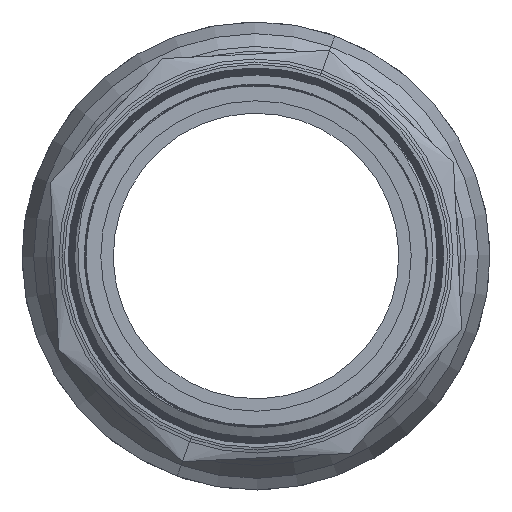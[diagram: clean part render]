
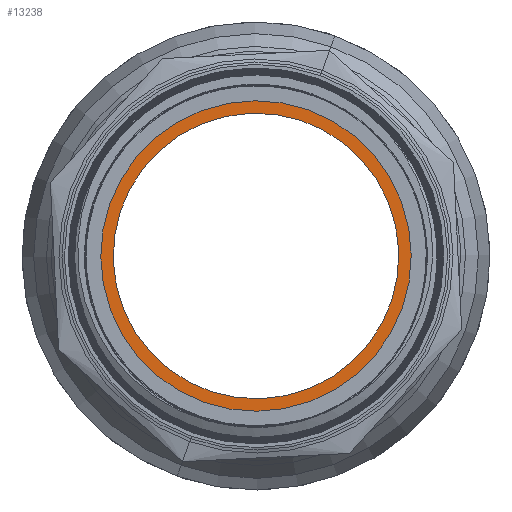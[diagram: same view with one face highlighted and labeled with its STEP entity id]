
A CAD part, left-side view. The second image highlights one B-rep face of the part: STEP entity #13238.
In plain terms, the highlighted planar face has unit normal (-1, 0, 0).
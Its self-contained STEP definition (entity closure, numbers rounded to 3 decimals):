
#477 = CARTESIAN_POINT ( 'NONE',  ( -774.548, 0., 71.953 ) ) ;
#478 = DIRECTION ( 'NONE',  ( -1., 0., 0. ) ) ;
#479 = DIRECTION ( 'NONE',  ( 0., -0.613, 0.79 ) ) ;
#542 = CARTESIAN_POINT ( 'NONE',  ( -774.548, 0., 71.953 ) ) ;
#543 = DIRECTION ( 'NONE',  ( -1., 0., 0. ) ) ;
#544 = DIRECTION ( 'NONE',  ( 0., -0.613, 0.79 ) ) ;
#765 = CARTESIAN_POINT ( 'NONE',  ( -774.548, 0., 71.953 ) ) ;
#766 = DIRECTION ( 'NONE',  ( -1., 0., 0. ) ) ;
#767 = DIRECTION ( 'NONE',  ( 0., -0.613, 0.79 ) ) ;
#768 = CARTESIAN_POINT ( 'NONE',  ( -774.548, 0., 71.953 ) ) ;
#769 = DIRECTION ( 'NONE',  ( -1., 0., 0. ) ) ;
#770 = DIRECTION ( 'NONE',  ( 0., -0.613, 0.79 ) ) ;
#1520 = CARTESIAN_POINT ( 'NONE',  ( -774.548, 10.115, 58.917 ) ) ;
#1576 = CARTESIAN_POINT ( 'NONE',  ( -774.548, -10.115, 84.989 ) ) ;
#1582 = CARTESIAN_POINT ( 'NONE',  ( -774.548, -7.05, 81.038 ) ) ;
#1586 = CARTESIAN_POINT ( 'NONE',  ( -774.548, 7.05, 62.867 ) ) ;
#13238 = ADVANCED_FACE ( 'NONE', ( #14004, #14005 ), #14006, .T. ) ;
#13384 = EDGE_CURVE ( 'NONE', #13647, #13643, #16756, .T. ) ;
#13390 = EDGE_CURVE ( 'NONE', #13637, #13651, #16758, .T. ) ;
#13411 = EDGE_CURVE ( 'NONE', #13651, #13637, #15822, .T. ) ;
#13412 = EDGE_CURVE ( 'NONE', #13643, #13647, #15844, .T. ) ;
#13637 = VERTEX_POINT ( 'NONE', #1576 ) ;
#13643 = VERTEX_POINT ( 'NONE', #1582 ) ;
#13647 = VERTEX_POINT ( 'NONE', #1586 ) ;
#13651 = VERTEX_POINT ( 'NONE', #1520 ) ;
#14001 = CARTESIAN_POINT ( 'NONE',  ( -774.548, 0., 71.953 ) ) ;
#14004 = FACE_OUTER_BOUND ( 'NONE', #14858, .T. ) ;
#14005 = FACE_BOUND ( 'NONE', #14656, .T. ) ;
#14006 = PLANE ( 'NONE',  #16883 ) ;
#14008 = DIRECTION ( 'NONE',  ( -1., 0., 0. ) ) ;
#14009 = DIRECTION ( 'NONE',  ( 0., -0.613, 0.79 ) ) ;
#14656 = EDGE_LOOP ( 'NONE', ( #16681, #16682 ) ) ;
#14858 = EDGE_LOOP ( 'NONE', ( #16679, #16680 ) ) ;
#15822 = CIRCLE ( 'NONE', #15890, 16.5 ) ;
#15843 = AXIS2_PLACEMENT_3D ( 'NONE', #768, #769, #770 ) ;
#15844 = CIRCLE ( 'NONE', #15843, 11.5 ) ;
#15890 = AXIS2_PLACEMENT_3D ( 'NONE', #765, #766, #767 ) ;
#16679 = ORIENTED_EDGE ( 'NONE', *, *, #13411, .T. ) ;
#16680 = ORIENTED_EDGE ( 'NONE', *, *, #13390, .T. ) ;
#16681 = ORIENTED_EDGE ( 'NONE', *, *, #13384, .F. ) ;
#16682 = ORIENTED_EDGE ( 'NONE', *, *, #13412, .F. ) ;
#16748 = AXIS2_PLACEMENT_3D ( 'NONE', #542, #543, #544 ) ;
#16755 = AXIS2_PLACEMENT_3D ( 'NONE', #477, #478, #479 ) ;
#16756 = CIRCLE ( 'NONE', #16755, 11.5 ) ;
#16758 = CIRCLE ( 'NONE', #16748, 16.5 ) ;
#16883 = AXIS2_PLACEMENT_3D ( 'NONE', #14001, #14008, #14009 ) ;
